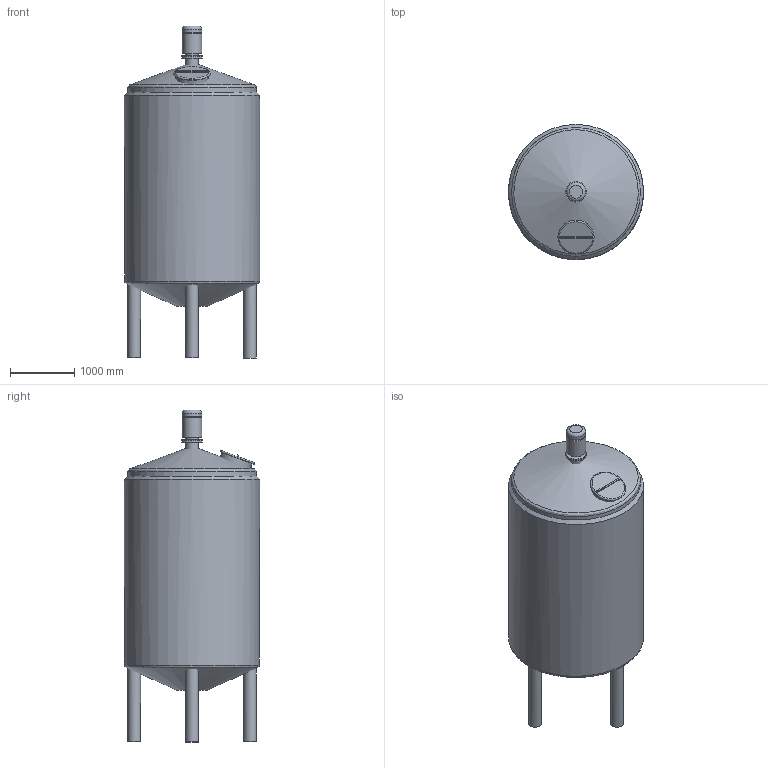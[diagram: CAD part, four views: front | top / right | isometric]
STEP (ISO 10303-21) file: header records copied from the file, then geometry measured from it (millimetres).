
FILE_DESCRIPTION(('FreeCAD Model'),'2;1');
FILE_NAME('/home/martin/Documents/web/boteromartin/archivos/depositos/tanke_10lt_ais.step','2022-08-19T20:43:40',('Author'),(''), 'Open CASCADE STEP processor 7.3','FreeCAD','Unknown');
FILE_SCHEMA(('AUTOMOTIVE_DESIGN { 1 0 10303 214 1 1 1 1 }'));
Length unit declared in the file: millimetre
Products named in the file (5): Vaso; Aislamiento; Patas; mh-500; timpsa-hd
Bounding box: 2100 x 2100 x 5161.09 mm (x, y, z)
Volume: 11701154168.2 mm3; surface area: 76222051.6 mm2
Topology: 8 solids, 8 shells, 70 faces, 120 edges, 71 vertices
Faces by surface type: plane 32, cylinder 19, cone 14, bspline 3, torus 2
Full cylindrical faces by diameter (mm): 40 x1, 200 x6, 240 x1, 300 x2, 320 x2, 500 x1, 560 x1, 2000 x2, 2100 x1
Entity records: 4825 total; most frequent: CARTESIAN_POINT 1852, DIRECTION 472, ORIENTED_EDGE 236, PCURVE 236, DEFINITIONAL_REPRESENTATION 236, LINE 223, VECTOR 223, EDGE_CURVE 118
